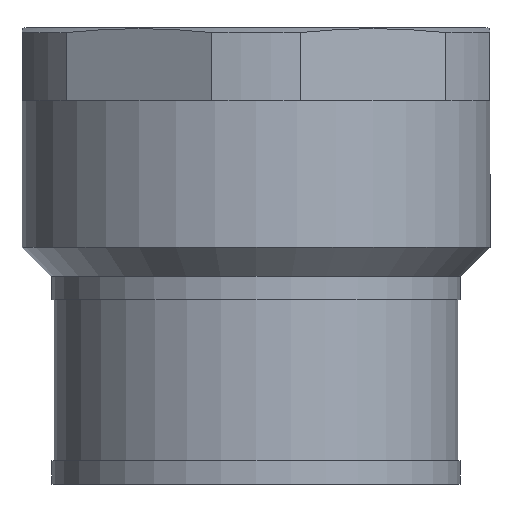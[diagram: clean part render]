
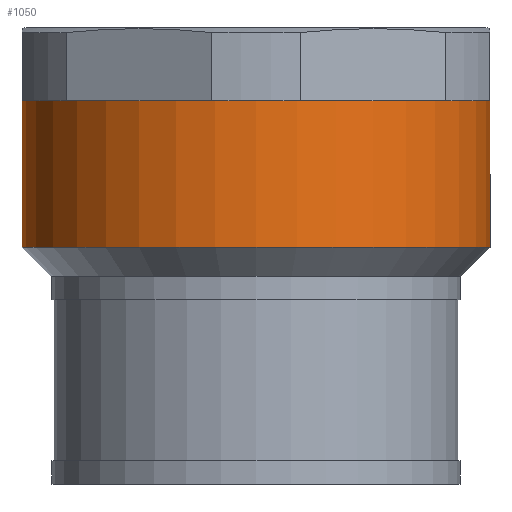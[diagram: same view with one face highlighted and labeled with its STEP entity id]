
A CAD part, front view. The second image highlights one B-rep face of the part: STEP entity #1050.
In plain terms, the highlighted cylindrical face has radius 8 mm (diameter 16 mm), a partial arc.
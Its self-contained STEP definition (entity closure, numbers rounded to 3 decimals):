
#1 = VERTEX_POINT ( 'NONE', #1020 ) ;
#2 = VERTEX_POINT ( 'NONE', #1019 ) ;
#9 = VERTEX_POINT ( 'NONE', #1070 ) ;
#15 = EDGE_CURVE ( 'NONE', #2, #9, #1058, .T. ) ;
#871 = VERTEX_POINT ( 'NONE', #2485 ) ;
#882 = EDGE_CURVE ( 'NONE', #871, #886, #2528, .T. ) ;
#886 = VERTEX_POINT ( 'NONE', #2517 ) ;
#887 = EDGE_CURVE ( 'NONE', #886, #9, #2516, .T. ) ;
#943 = EDGE_CURVE ( 'NONE', #2918, #871, #2661, .T. ) ;
#983 = ORIENTED_EDGE ( 'NONE', *, *, #887, .F. ) ;
#1019 = CARTESIAN_POINT ( 'NONE',  ( 8., 0., -7.5 ) ) ;
#1020 = CARTESIAN_POINT ( 'NONE',  ( -8., 0., -7.5 ) ) ;
#1032 = ORIENTED_EDGE ( 'NONE', *, *, #882, .F. ) ;
#1033 = ORIENTED_EDGE ( 'NONE', *, *, #943, .F. ) ;
#1049 = EDGE_CURVE ( 'NONE', #1, #2, #2776, .T. ) ;
#1050 = ADVANCED_FACE ( 'NONE', ( #2771 ), #2770, .T. ) ;
#1051 = EDGE_LOOP ( 'NONE', ( #1052, #1053, #1054, #983, #1032, #1033 ) ) ;
#1052 = ORIENTED_EDGE ( 'NONE', *, *, #2920, .F. ) ;
#1053 = ORIENTED_EDGE ( 'NONE', *, *, #1049, .T. ) ;
#1054 = ORIENTED_EDGE ( 'NONE', *, *, #15, .T. ) ;
#1055 = DIRECTION ( 'NONE',  ( 0., 0., 1. ) ) ;
#1056 = VECTOR ( 'NONE', #1055, 1000. ) ;
#1057 = CARTESIAN_POINT ( 'NONE',  ( 8., 0., 0. ) ) ;
#1058 = LINE ( 'NONE', #1057, #1056 ) ;
#1070 = CARTESIAN_POINT ( 'NONE',  ( 8., 0., -2.5 ) ) ;
#2269 = DIRECTION ( 'NONE',  ( 1., 0., 0. ) ) ;
#2485 = CARTESIAN_POINT ( 'NONE',  ( -4., -6.928, -2.5 ) ) ;
#2513 = DIRECTION ( 'NONE',  ( 0., 0., 1. ) ) ;
#2514 = CARTESIAN_POINT ( 'NONE',  ( 0., 0., -2.5 ) ) ;
#2515 = AXIS2_PLACEMENT_3D ( 'NONE', #2514, #2513, #2269 ) ;
#2516 = CIRCLE ( 'NONE', #2515, 8. ) ;
#2517 = CARTESIAN_POINT ( 'NONE',  ( 4., -6.928, -2.5 ) ) ;
#2524 = DIRECTION ( 'NONE',  ( 1., 0., 0. ) ) ;
#2525 = DIRECTION ( 'NONE',  ( 0., 0., 1. ) ) ;
#2526 = CARTESIAN_POINT ( 'NONE',  ( 0., 0., -2.5 ) ) ;
#2527 = AXIS2_PLACEMENT_3D ( 'NONE', #2526, #2525, #2524 ) ;
#2528 = CIRCLE ( 'NONE', #2527, 8. ) ;
#2657 = DIRECTION ( 'NONE',  ( 1., 0., 0. ) ) ;
#2658 = DIRECTION ( 'NONE',  ( 0., 0., 1. ) ) ;
#2659 = CARTESIAN_POINT ( 'NONE',  ( 0., 0., -2.5 ) ) ;
#2660 = AXIS2_PLACEMENT_3D ( 'NONE', #2659, #2658, #2657 ) ;
#2661 = CIRCLE ( 'NONE', #2660, 8. ) ;
#2766 = DIRECTION ( 'NONE',  ( 1., 0., 0. ) ) ;
#2767 = DIRECTION ( 'NONE',  ( 0., 0., 1. ) ) ;
#2768 = CARTESIAN_POINT ( 'NONE',  ( 0., 0., 0. ) ) ;
#2769 = AXIS2_PLACEMENT_3D ( 'NONE', #2768, #2767, #2766 ) ;
#2770 = CYLINDRICAL_SURFACE ( 'NONE', #2769, 8. ) ;
#2771 = FACE_OUTER_BOUND ( 'NONE', #1051, .T. ) ;
#2772 = DIRECTION ( 'NONE',  ( 1., 0., 0. ) ) ;
#2773 = DIRECTION ( 'NONE',  ( 0., 0., 1. ) ) ;
#2774 = CARTESIAN_POINT ( 'NONE',  ( 0., 0., -7.5 ) ) ;
#2775 = AXIS2_PLACEMENT_3D ( 'NONE', #2774, #2773, #2772 ) ;
#2776 = CIRCLE ( 'NONE', #2775, 8. ) ;
#2801 = DIRECTION ( 'NONE',  ( 0., 0., 1. ) ) ;
#2802 = VECTOR ( 'NONE', #2801, 1000. ) ;
#2803 = CARTESIAN_POINT ( 'NONE',  ( -8., 0., 0. ) ) ;
#2804 = LINE ( 'NONE', #2803, #2802 ) ;
#2810 = CARTESIAN_POINT ( 'NONE',  ( -8., 0., -2.5 ) ) ;
#2918 = VERTEX_POINT ( 'NONE', #2810 ) ;
#2920 = EDGE_CURVE ( 'NONE', #1, #2918, #2804, .T. ) ;
